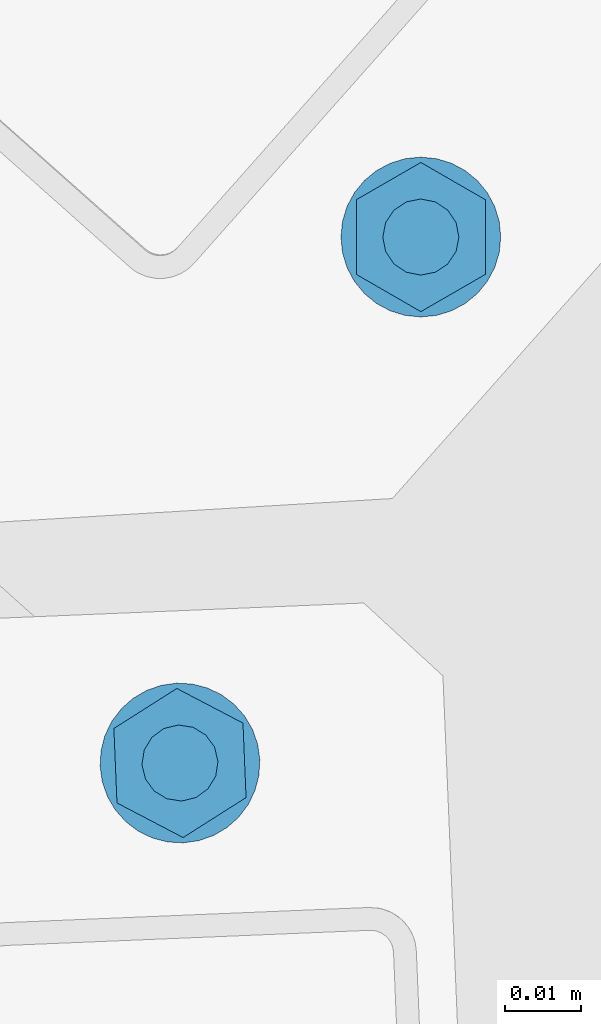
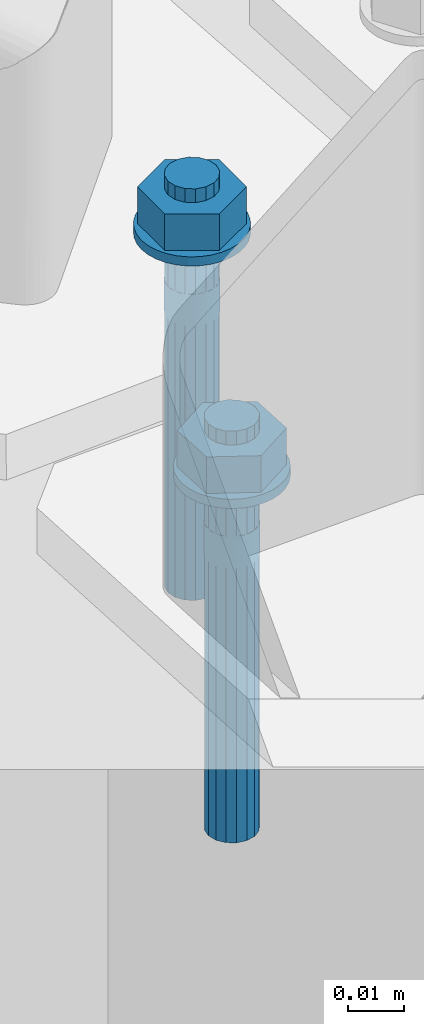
# One storey, part 245 of 288: 2 mechanical fasteners.
"""IFC2X3 building model written with IfcOpenShell, lengths in millimetres."""

from ifc_helpers import new_model, entity, si_unit, converted_unit, origin_with_axes, place, context, project, spatial, faceted_brep, element, save


model = new_model("IFC2X3")

# Units and contexts
model_context = context("Model", 3, precision=1e-09, world=origin_with_axes())
ifc_project = project(units=[si_unit("LENGTHUNIT", "METRE", prefix="MILLI"), si_unit("AREAUNIT", "SQUARE_METRE"), si_unit("VOLUMEUNIT", "CUBIC_METRE"), converted_unit("PLANEANGLEUNIT", "DEGREE", entity("IfcPlaneAngleMeasure", 0.01745329), si_unit("PLANEANGLEUNIT", "RADIAN"), dimensions=[0, 0, 0, 0, 0, 0, 0])], contexts=[model_context])

# Site, building, storey
site_placement = place(None, origin_with_axes())
site = spatial("IfcSite", under=ifc_project, at=site_placement, Name="Remont ?wietlik?w nad MC w NCPP w Opolu", CompositionType="ELEMENT")
building_placement = place(site_placement, origin_with_axes())
building = spatial("IfcBuilding", under=site, at=building_placement, Name="Konstrukcja 1", CompositionType="ELEMENT")
storey_placement = place(building_placement, origin_with_axes())
storey = spatial("IfcBuildingStorey", under=building, at=storey_placement, Name="Default Storey", CompositionType="ELEMENT", Elevation=0.0)

# Mechanical fasteners
mechanical_fastener_1_placement = place(None, origin_with_axes())
element("IfcMechanicalFastener", 1, at=mechanical_fastener_1_placement, inside=storey, ObjectType="-", NominalDiameter=10.0, NominalLength=90.0, context=model_context, shape_type="Brep", body=[
    faceted_brep([(1345.721827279, 13539.473274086, 12.017197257), (1345.721827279, 13539.473274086, 10.017197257), (1345.923581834, 13537.424825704, 10.017197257), (1345.923581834, 13537.424825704, 12.017197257), (1346.521092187, 13535.455098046, 10.017197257), (1346.521092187, 13535.455098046, 12.017197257), (1347.491396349, 13533.639786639, 10.017197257), (1347.491396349, 13533.639786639, 12.017197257), (1348.797206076, 13532.048652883, 10.017197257), (1348.797206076, 13532.048652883, 12.017197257), (1350.388339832, 13530.742843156, 10.017197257), (1350.388339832, 13530.742843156, 12.017197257), (1352.203651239, 13529.772538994, 10.017197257), (1352.203651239, 13529.772538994, 12.017197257), (1354.173378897, 13529.175028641, 10.017197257), (1354.173378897, 13529.175028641, 12.017197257), (1356.221827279, 13528.973274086, 10.017197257), (1356.221827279, 13528.973274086, 12.017197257), (1358.27027566, 13529.175028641, 10.017197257), (1358.27027566, 13529.175028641, 12.017197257), (1360.240003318, 13529.772538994, 10.017197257), (1360.240003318, 13529.772538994, 12.017197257), (1362.055314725, 13530.742843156, 10.017197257), (1362.055314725, 13530.742843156, 12.017197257), (1363.646448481, 13532.048652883, 10.017197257), (1363.646448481, 13532.048652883, 12.017197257), (1364.952258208, 13533.639786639, 10.017197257), (1364.952258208, 13533.639786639, 12.017197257), (1365.92256237, 13535.455098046, 10.017197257), (1365.92256237, 13535.455098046, 12.017197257), (1366.520072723, 13537.424825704, 10.017197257), (1366.520072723, 13537.424825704, 12.017197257), (1366.721827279, 13539.473274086, 10.017197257), (1366.721827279, 13539.473274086, 12.017197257), (1366.520072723, 13541.521722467, 10.017197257), (1366.520072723, 13541.521722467, 12.017197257), (1365.92256237, 13543.491450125, 10.017197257), (1365.92256237, 13543.491450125, 12.017197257), (1364.952258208, 13545.306761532, 10.017197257), (1364.952258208, 13545.306761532, 12.017197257), (1363.646448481, 13546.897895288, 10.017197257), (1363.646448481, 13546.897895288, 12.017197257), (1362.055314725, 13548.203705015, 10.017197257), (1362.055314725, 13548.203705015, 12.017197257), (1360.240003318, 13549.174009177, 10.017197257), (1360.240003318, 13549.174009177, 12.017197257), (1358.27027566, 13549.77151953, 10.017197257), (1358.27027566, 13549.77151953, 12.017197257), (1356.221827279, 13549.973274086, 10.017197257), (1356.221827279, 13549.973274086, 12.017197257), (1354.173378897, 13549.77151953, 10.017197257), (1354.173378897, 13549.77151953, 12.017197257), (1352.203651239, 13549.174009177, 10.017197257), (1352.203651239, 13549.174009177, 12.017197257), (1350.388339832, 13548.203705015, 10.017197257), (1350.388339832, 13548.203705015, 12.017197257), (1348.797206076, 13546.897895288, 10.017197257), (1348.797206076, 13546.897895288, 12.017197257), (1347.491396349, 13545.306761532, 10.017197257), (1347.491396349, 13545.306761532, 12.017197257), (1346.521092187, 13543.491450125, 10.017197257), (1346.521092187, 13543.491450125, 12.017197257), (1345.923581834, 13541.521722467, 10.017197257), (1345.923581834, 13541.521722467, 12.017197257)], [[[0, 1, 2, 3]], [[3, 2, 4, 5]], [[5, 4, 6, 7]], [[7, 6, 8, 9]], [[9, 8, 10, 11]], [[11, 10, 12, 13]], [[13, 12, 14, 15]], [[15, 14, 16, 17]], [[17, 16, 18, 19]], [[19, 18, 20, 21]], [[21, 20, 22, 23]], [[23, 22, 24, 25]], [[25, 24, 26, 27]], [[27, 26, 28, 29]], [[29, 28, 30, 31]], [[31, 30, 32, 33]], [[33, 32, 34, 35]], [[35, 34, 36, 37]], [[37, 36, 38, 39]], [[39, 38, 40, 41]], [[41, 40, 42, 43]], [[43, 42, 44, 45]], [[45, 44, 46, 47]], [[47, 46, 48, 49]], [[49, 48, 50, 51]], [[51, 50, 52, 53]], [[53, 52, 54, 55]], [[55, 54, 56, 57]], [[57, 56, 58, 59]], [[59, 58, 60, 61]], [[61, 60, 62, 63]], [[63, 62, 1, 0]], [[0, 3, 5, 7, 9, 11, 13, 15, 17, 19, 21, 23, 25, 27, 29, 31, 33, 35, 37, 39, 41, 43, 45, 47, 49, 51, 53, 55, 57, 59, 61, 63]], [[1, 62, 60, 58, 56, 54, 52, 50, 48, 46, 44, 42, 40, 38, 36, 34, 32, 30, 28, 26, 24, 22, 20, 18, 16, 14, 12, 10, 8, 6, 4, 2]]]),
    faceted_brep([(1364.708876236, 13534.573274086, 12.017197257), (1364.708876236, 13534.573274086, 20.017197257), (1356.221827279, 13529.673274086, 20.017197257), (1356.221827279, 13529.673274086, 12.017197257), (1347.734778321, 13534.573274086, 20.017197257), (1347.734778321, 13534.573274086, 12.017197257), (1347.734778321, 13544.373274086, 20.017197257), (1347.734778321, 13544.373274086, 12.017197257), (1356.221827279, 13549.273274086, 20.017197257), (1356.221827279, 13549.273274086, 12.017197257), (1364.708876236, 13544.373274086, 20.017197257), (1364.708876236, 13544.373274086, 12.017197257)], [[[0, 1, 2, 3]], [[3, 2, 4, 5]], [[5, 4, 6, 7]], [[7, 6, 8, 9]], [[9, 8, 10, 11]], [[11, 10, 1, 0]], [[4, 2, 1, 10, 8, 6]], [[0, 3, 5, 7, 9, 11]]]),
    faceted_brep([(1351.221827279, 13539.473274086, 23.017197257), (1351.221827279, 13539.473274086, 20.017197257), (1351.602429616, 13537.559856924, 20.017197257), (1351.602429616, 13537.559856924, 23.017197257), (1352.686293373, 13535.93774018, 20.017197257), (1352.686293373, 13535.93774018, 23.017197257), (1354.308410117, 13534.853876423, 20.017197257), (1354.308410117, 13534.853876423, 23.017197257), (1356.221827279, 13534.473274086, 20.017197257), (1356.221827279, 13534.473274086, 23.017197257), (1358.13524444, 13534.853876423, 20.017197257), (1358.13524444, 13534.853876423, 23.017197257), (1359.757361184, 13535.93774018, 20.017197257), (1359.757361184, 13535.93774018, 23.017197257), (1360.841224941, 13537.559856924, 20.017197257), (1360.841224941, 13537.559856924, 23.017197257), (1361.221827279, 13539.473274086, 20.017197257), (1361.221827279, 13539.473274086, 23.017197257), (1360.841224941, 13541.386691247, 20.017197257), (1360.841224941, 13541.386691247, 23.017197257), (1359.757361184, 13543.008807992, 20.017197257), (1359.757361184, 13543.008807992, 23.017197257), (1358.13524444, 13544.092671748, 20.017197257), (1358.13524444, 13544.092671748, 23.017197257), (1356.221827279, 13544.473274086, 20.017197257), (1356.221827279, 13544.473274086, 23.017197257), (1354.308410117, 13544.092671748, 20.017197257), (1354.308410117, 13544.092671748, 23.017197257), (1352.686293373, 13543.008807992, 20.017197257), (1352.686293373, 13543.008807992, 23.017197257), (1351.602429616, 13541.386691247, 20.017197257), (1351.602429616, 13541.386691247, 23.017197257)], [[[0, 1, 2, 3]], [[3, 2, 4, 5]], [[5, 4, 6, 7]], [[7, 6, 8, 9]], [[9, 8, 10, 11]], [[11, 10, 12, 13]], [[13, 12, 14, 15]], [[15, 14, 16, 17]], [[17, 16, 18, 19]], [[19, 18, 20, 21]], [[21, 20, 22, 23]], [[23, 22, 24, 25]], [[25, 24, 26, 27]], [[27, 26, 28, 29]], [[29, 28, 30, 31]], [[31, 30, 1, 0]], [[0, 3, 5, 7, 9, 11, 13, 15, 17, 19, 21, 23, 25, 27, 29, 31]], [[1, 30, 28, 26, 24, 22, 20, 18, 16, 14, 12, 10, 8, 6, 4, 2]]]),
    faceted_brep([(1351.221827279, 13539.473274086, 10.017197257), (1351.221827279, 13539.473274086, -0.025588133), (1351.602429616, 13537.559856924, -0.025588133), (1351.602429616, 13537.559856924, 10.017197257), (1352.686293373, 13535.93774018, -0.025588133), (1352.686293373, 13535.93774018, 10.017197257), (1354.308410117, 13534.853876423, -0.025588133), (1354.308410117, 13534.853876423, 10.017197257), (1356.221827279, 13534.473274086, -0.025588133), (1356.221827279, 13534.473274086, 10.017197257), (1358.13524444, 13534.853876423, -0.025588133), (1358.13524444, 13534.853876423, 10.017197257), (1359.757361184, 13535.93774018, -0.025588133), (1359.757361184, 13535.93774018, 10.017197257), (1360.841224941, 13537.559856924, -0.025588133), (1360.841224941, 13537.559856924, 10.017197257), (1361.221827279, 13539.473274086, -0.025588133), (1361.221827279, 13539.473274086, 10.017197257), (1360.841224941, 13541.386691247, -0.025588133), (1360.841224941, 13541.386691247, 10.017197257), (1359.757361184, 13543.008807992, -0.025588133), (1359.757361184, 13543.008807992, 10.017197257), (1358.13524444, 13544.092671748, -0.025588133), (1358.13524444, 13544.092671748, 10.017197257), (1356.221827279, 13544.473274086, -0.025588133), (1356.221827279, 13544.473274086, 10.017197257), (1354.308410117, 13544.092671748, -0.025588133), (1354.308410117, 13544.092671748, 10.017197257), (1352.686293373, 13543.008807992, -0.025588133), (1352.686293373, 13543.008807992, 10.017197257), (1351.602429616, 13541.386691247, -0.025588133), (1351.602429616, 13541.386691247, 10.017197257)], [[[0, 1, 2, 3]], [[3, 2, 4, 5]], [[5, 4, 6, 7]], [[7, 6, 8, 9]], [[9, 8, 10, 11]], [[11, 10, 12, 13]], [[13, 12, 14, 15]], [[15, 14, 16, 17]], [[17, 16, 18, 19]], [[19, 18, 20, 21]], [[21, 20, 22, 23]], [[23, 22, 24, 25]], [[25, 24, 26, 27]], [[27, 26, 28, 29]], [[29, 28, 30, 31]], [[31, 30, 1, 0]], [[0, 3, 5, 7, 9, 11, 13, 15, 17, 19, 21, 23, 25, 27, 29, 31]], [[1, 30, 28, 26, 24, 22, 20, 18, 16, 14, 12, 10, 8, 6, 4, 2]]]),
    faceted_brep([(1351.221827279, 13539.473274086, -0.025588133), (1351.221827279, 13539.473274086, -6.982802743), (1351.317900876, 13538.497822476, -6.982802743), (1351.317900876, 13538.497822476, -0.025588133), (1351.602429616, 13537.559856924, -6.982802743), (1351.602429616, 13537.559856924, -0.025588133), (1352.064479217, 13536.695422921, -6.982802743), (1352.064479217, 13536.695422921, -0.025588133), (1352.686293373, 13535.93774018, -6.982802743), (1352.686293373, 13535.93774018, -0.025588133), (1353.443976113, 13535.315926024, -6.982802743), (1353.443976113, 13535.315926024, -0.025588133), (1354.308410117, 13534.853876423, -6.982802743), (1354.308410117, 13534.853876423, -0.025588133), (1355.246375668, 13534.569347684, -6.982802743), (1355.246375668, 13534.569347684, -0.025588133), (1356.221827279, 13534.473274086, -6.982802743), (1356.221827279, 13534.473274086, -0.025588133), (1357.197278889, 13534.569347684, -6.982802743), (1357.197278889, 13534.569347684, -0.025588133), (1358.13524444, 13534.853876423, -6.982802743), (1358.13524444, 13534.853876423, -0.025588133), (1358.999678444, 13535.315926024, -6.982802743), (1358.999678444, 13535.315926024, -0.025588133), (1359.757361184, 13535.93774018, -6.982802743), (1359.757361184, 13535.93774018, -0.025588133), (1360.37917534, 13536.695422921, -6.982802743), (1360.37917534, 13536.695422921, -0.025588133), (1360.841224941, 13537.559856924, -6.982802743), (1360.841224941, 13537.559856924, -0.025588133), (1361.125753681, 13538.497822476, -6.982802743), (1361.125753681, 13538.497822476, -0.025588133), (1361.221827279, 13539.473274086, -6.982802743), (1361.221827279, 13539.473274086, -0.025588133), (1361.125753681, 13540.448725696, -6.982802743), (1361.125753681, 13540.448725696, -0.025588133), (1360.841224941, 13541.386691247, -6.982802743), (1360.841224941, 13541.386691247, -0.025588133), (1360.37917534, 13542.251125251, -6.982802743), (1360.37917534, 13542.251125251, -0.025588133), (1359.757361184, 13543.008807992, -6.982802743), (1359.757361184, 13543.008807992, -0.025588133), (1358.999678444, 13543.630622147, -6.982802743), (1358.999678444, 13543.630622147, -0.025588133), (1358.13524444, 13544.092671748, -6.982802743), (1358.13524444, 13544.092671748, -0.025588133), (1357.197278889, 13544.377200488, -6.982802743), (1357.197278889, 13544.377200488, -0.025588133), (1356.221827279, 13544.473274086, -6.982802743), (1356.221827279, 13544.473274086, -0.025588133), (1355.246375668, 13544.377200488, -6.982802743), (1355.246375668, 13544.377200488, -0.025588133), (1354.308410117, 13544.092671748, -6.982802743), (1354.308410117, 13544.092671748, -0.025588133), (1353.443976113, 13543.630622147, -6.982802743), (1353.443976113, 13543.630622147, -0.025588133), (1352.686293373, 13543.008807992, -6.982802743), (1352.686293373, 13543.008807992, -0.025588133), (1352.064479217, 13542.251125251, -6.982802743), (1352.064479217, 13542.251125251, -0.025588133), (1351.602429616, 13541.386691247, -6.982802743), (1351.602429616, 13541.386691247, -0.025588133), (1351.317900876, 13540.448725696, -6.982802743), (1351.317900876, 13540.448725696, -0.025588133)], [[[0, 1, 2, 3]], [[3, 2, 4, 5]], [[5, 4, 6, 7]], [[7, 6, 8, 9]], [[9, 8, 10, 11]], [[11, 10, 12, 13]], [[13, 12, 14, 15]], [[15, 14, 16, 17]], [[17, 16, 18, 19]], [[19, 18, 20, 21]], [[21, 20, 22, 23]], [[23, 22, 24, 25]], [[25, 24, 26, 27]], [[27, 26, 28, 29]], [[29, 28, 30, 31]], [[31, 30, 32, 33]], [[33, 32, 34, 35]], [[35, 34, 36, 37]], [[37, 36, 38, 39]], [[39, 38, 40, 41]], [[41, 40, 42, 43]], [[43, 42, 44, 45]], [[45, 44, 46, 47]], [[47, 46, 48, 49]], [[49, 48, 50, 51]], [[51, 50, 52, 53]], [[53, 52, 54, 55]], [[55, 54, 56, 57]], [[57, 56, 58, 59]], [[59, 58, 60, 61]], [[61, 60, 62, 63]], [[63, 62, 1, 0]], [[0, 3, 5, 7, 9, 11, 13, 15, 17, 19, 21, 23, 25, 27, 29, 31, 33, 35, 37, 39, 41, 43, 45, 47, 49, 51, 53, 55, 57, 59, 61, 63]], [[1, 62, 60, 58, 56, 54, 52, 50, 48, 46, 44, 42, 40, 38, 36, 34, 32, 30, 28, 26, 24, 22, 20, 18, 16, 14, 12, 10, 8, 6, 4, 2]]]),
    faceted_brep([(1351.221827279, 13539.473274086, -6.982802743), (1351.221827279, 13539.473274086, -66.982802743), (1351.602429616, 13537.559856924, -66.982802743), (1351.602429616, 13537.559856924, -6.982802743), (1352.686293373, 13535.93774018, -66.982802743), (1352.686293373, 13535.93774018, -6.982802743), (1354.308410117, 13534.853876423, -66.982802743), (1354.308410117, 13534.853876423, -6.982802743), (1356.221827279, 13534.473274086, -66.982802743), (1356.221827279, 13534.473274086, -6.982802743), (1358.13524444, 13534.853876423, -66.982802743), (1358.13524444, 13534.853876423, -6.982802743), (1359.757361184, 13535.93774018, -66.982802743), (1359.757361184, 13535.93774018, -6.982802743), (1360.841224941, 13537.559856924, -66.982802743), (1360.841224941, 13537.559856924, -6.982802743), (1361.221827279, 13539.473274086, -66.982802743), (1361.221827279, 13539.473274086, -6.982802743), (1360.841224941, 13541.386691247, -66.982802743), (1360.841224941, 13541.386691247, -6.982802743), (1359.757361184, 13543.008807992, -66.982802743), (1359.757361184, 13543.008807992, -6.982802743), (1358.13524444, 13544.092671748, -66.982802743), (1358.13524444, 13544.092671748, -6.982802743), (1356.221827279, 13544.473274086, -66.982802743), (1356.221827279, 13544.473274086, -6.982802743), (1354.308410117, 13544.092671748, -66.982802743), (1354.308410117, 13544.092671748, -6.982802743), (1352.686293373, 13543.008807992, -66.982802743), (1352.686293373, 13543.008807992, -6.982802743), (1351.602429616, 13541.386691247, -66.982802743), (1351.602429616, 13541.386691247, -6.982802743)], [[[0, 1, 2, 3]], [[3, 2, 4, 5]], [[5, 4, 6, 7]], [[7, 6, 8, 9]], [[9, 8, 10, 11]], [[11, 10, 12, 13]], [[13, 12, 14, 15]], [[15, 14, 16, 17]], [[17, 16, 18, 19]], [[19, 18, 20, 21]], [[21, 20, 22, 23]], [[23, 22, 24, 25]], [[25, 24, 26, 27]], [[27, 26, 28, 29]], [[29, 28, 30, 31]], [[31, 30, 1, 0]], [[0, 3, 5, 7, 9, 11, 13, 15, 17, 19, 21, 23, 25, 27, 29, 31]], [[1, 30, 28, 26, 24, 22, 20, 18, 16, 14, 12, 10, 8, 6, 4, 2]]]),
])
mechanical_fastener_2_placement = place(None, origin_with_axes())
element("IfcMechanicalFastener", 2, at=mechanical_fastener_2_placement, inside=storey, ObjectType="Anchor_Bolt", NominalDiameter=10.0, NominalLength=90.0, context=model_context, shape_type="Brep", body=[
    faceted_brep([(1314.080659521, 13469.92747327, 12.000000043), (1314.080659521, 13469.92747327, 10.000000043), (1314.367601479, 13467.88921176, 10.000000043), (1314.367601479, 13467.88921176, 12.000000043), (1315.046675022, 13465.946094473, 10.000000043), (1315.046675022, 13465.946094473, 12.000000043), (1316.091783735, 13464.172794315, 10.000000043), (1316.091783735, 13464.172794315, 12.000000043), (1317.462764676, 13462.637458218, 10.000000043), (1317.462764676, 13462.637458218, 12.000000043), (1319.106931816, 13461.399088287, 10.000000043), (1319.106931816, 13461.399088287, 12.000000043), (1320.961100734, 13460.505274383, 10.000000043), (1320.961100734, 13460.505274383, 12.000000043), (1322.954016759, 13459.990365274, 10.000000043), (1322.954016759, 13459.990365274, 12.000000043), (1325.009093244, 13459.874148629, 10.000000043), (1325.009093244, 13459.874148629, 12.000000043), (1327.047354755, 13460.161090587, 10.000000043), (1327.047354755, 13460.161090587, 12.000000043), (1328.990472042, 13460.84016413, 10.000000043), (1328.990472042, 13460.84016413, 12.000000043), (1330.7637722, 13461.885272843, 10.000000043), (1330.7637722, 13461.885272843, 12.000000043), (1332.299108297, 13463.256253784, 10.000000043), (1332.299108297, 13463.256253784, 12.000000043), (1333.537478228, 13464.900420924, 10.000000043), (1333.537478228, 13464.900420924, 12.000000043), (1334.431292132, 13466.754589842, 10.000000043), (1334.431292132, 13466.754589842, 12.000000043), (1334.94620124, 13468.747505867, 10.000000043), (1334.94620124, 13468.747505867, 12.000000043), (1335.062417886, 13470.802582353, 10.000000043), (1335.062417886, 13470.802582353, 12.000000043), (1334.775475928, 13472.840843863, 10.000000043), (1334.775475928, 13472.840843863, 12.000000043), (1334.096402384, 13474.783961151, 10.000000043), (1334.096402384, 13474.783961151, 12.000000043), (1333.051293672, 13476.557261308, 10.000000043), (1333.051293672, 13476.557261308, 12.000000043), (1331.680312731, 13478.092597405, 10.000000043), (1331.680312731, 13478.092597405, 12.000000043), (1330.036145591, 13479.330967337, 10.000000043), (1330.036145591, 13479.330967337, 12.000000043), (1328.181976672, 13480.22478124, 10.000000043), (1328.181976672, 13480.22478124, 12.000000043), (1326.189060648, 13480.739690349, 10.000000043), (1326.189060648, 13480.739690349, 12.000000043), (1324.133984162, 13480.855906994, 10.000000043), (1324.133984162, 13480.855906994, 12.000000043), (1322.095722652, 13480.568965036, 10.000000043), (1322.095722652, 13480.568965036, 12.000000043), (1320.152605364, 13479.889891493, 10.000000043), (1320.152605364, 13479.889891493, 12.000000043), (1318.379305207, 13478.84478278, 10.000000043), (1318.379305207, 13478.84478278, 12.000000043), (1316.843969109, 13477.473801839, 10.000000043), (1316.843969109, 13477.473801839, 12.000000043), (1315.605599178, 13475.829634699, 10.000000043), (1315.605599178, 13475.829634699, 12.000000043), (1314.711785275, 13473.975465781, 10.000000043), (1314.711785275, 13473.975465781, 12.000000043), (1314.196876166, 13471.982549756, 10.000000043), (1314.196876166, 13471.982549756, 12.000000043)], [[[0, 1, 2, 3]], [[3, 2, 4, 5]], [[5, 4, 6, 7]], [[7, 6, 8, 9]], [[9, 8, 10, 11]], [[11, 10, 12, 13]], [[13, 12, 14, 15]], [[15, 14, 16, 17]], [[17, 16, 18, 19]], [[19, 18, 20, 21]], [[21, 20, 22, 23]], [[23, 22, 24, 25]], [[25, 24, 26, 27]], [[27, 26, 28, 29]], [[29, 28, 30, 31]], [[31, 30, 32, 33]], [[33, 32, 34, 35]], [[35, 34, 36, 37]], [[37, 36, 38, 39]], [[39, 38, 40, 41]], [[41, 40, 42, 43]], [[43, 42, 44, 45]], [[45, 44, 46, 47]], [[47, 46, 48, 49]], [[49, 48, 50, 51]], [[51, 50, 52, 53]], [[53, 52, 54, 55]], [[55, 54, 56, 57]], [[57, 56, 58, 59]], [[59, 58, 60, 61]], [[61, 60, 62, 63]], [[63, 62, 1, 0]], [[0, 3, 5, 7, 9, 11, 13, 15, 17, 19, 21, 23, 25, 27, 29, 31, 33, 35, 37, 39, 41, 43, 45, 47, 49, 51, 53, 55, 57, 59, 61, 63]], [[1, 62, 60, 58, 56, 54, 52, 50, 48, 46, 44, 42, 40, 38, 36, 34, 32, 30, 28, 26, 24, 22, 20, 18, 16, 14, 12, 10, 8, 6, 4, 2]]]),
    faceted_brep([(1333.255407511, 13465.822955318, 12.000000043), (1333.255407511, 13465.822955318, 20.000000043), (1324.979922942, 13460.573540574, 20.000000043), (1324.979922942, 13460.573540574, 12.000000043), (1316.296054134, 13465.115613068, 20.000000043), (1316.296054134, 13465.115613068, 12.000000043), (1315.887669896, 13474.907100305, 20.000000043), (1315.887669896, 13474.907100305, 12.000000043), (1324.163154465, 13480.156515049, 20.000000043), (1324.163154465, 13480.156515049, 12.000000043), (1332.847023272, 13475.614442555, 20.000000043), (1332.847023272, 13475.614442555, 12.000000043)], [[[0, 1, 2, 3]], [[3, 2, 4, 5]], [[5, 4, 6, 7]], [[7, 6, 8, 9]], [[9, 8, 10, 11]], [[11, 10, 1, 0]], [[4, 2, 1, 10, 8, 6]], [[0, 3, 5, 7, 9, 11]]]),
    faceted_brep([(1319.57588195, 13470.156668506, 23.000000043), (1319.57588195, 13470.156668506, 20.000000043), (1320.035889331, 13468.260773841, 20.000000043), (1320.035889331, 13468.260773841, 23.000000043), (1321.186408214, 13466.685232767, 20.000000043), (1321.186408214, 13466.685232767, 23.000000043), (1322.852282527, 13465.669907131, 20.000000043), (1322.852282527, 13465.669907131, 23.000000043), (1324.779898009, 13465.369371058, 20.000000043), (1324.779898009, 13465.369371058, 23.000000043), (1326.675792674, 13465.82937844, 20.000000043), (1326.675792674, 13465.82937844, 23.000000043), (1328.251333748, 13466.979897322, 20.000000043), (1328.251333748, 13466.979897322, 23.000000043), (1329.266659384, 13468.645771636, 20.000000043), (1329.266659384, 13468.645771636, 23.000000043), (1329.567195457, 13470.573387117, 20.000000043), (1329.567195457, 13470.573387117, 23.000000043), (1329.107188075, 13472.469281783, 20.000000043), (1329.107188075, 13472.469281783, 23.000000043), (1327.956669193, 13474.044822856, 20.000000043), (1327.956669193, 13474.044822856, 23.000000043), (1326.290794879, 13475.060148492, 20.000000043), (1326.290794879, 13475.060148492, 23.000000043), (1324.363179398, 13475.360684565, 20.000000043), (1324.363179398, 13475.360684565, 23.000000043), (1322.467284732, 13474.900677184, 20.000000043), (1322.467284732, 13474.900677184, 23.000000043), (1320.891743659, 13473.750158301, 20.000000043), (1320.891743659, 13473.750158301, 23.000000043), (1319.876418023, 13472.084283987, 20.000000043), (1319.876418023, 13472.084283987, 23.000000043)], [[[0, 1, 2, 3]], [[3, 2, 4, 5]], [[5, 4, 6, 7]], [[7, 6, 8, 9]], [[9, 8, 10, 11]], [[11, 10, 12, 13]], [[13, 12, 14, 15]], [[15, 14, 16, 17]], [[17, 16, 18, 19]], [[19, 18, 20, 21]], [[21, 20, 22, 23]], [[23, 22, 24, 25]], [[25, 24, 26, 27]], [[27, 26, 28, 29]], [[29, 28, 30, 31]], [[31, 30, 1, 0]], [[0, 3, 5, 7, 9, 11, 13, 15, 17, 19, 21, 23, 25, 27, 29, 31]], [[1, 30, 28, 26, 24, 22, 20, 18, 16, 14, 12, 10, 8, 6, 4, 2]]]),
    faceted_brep([(1319.57588195, 13470.156668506, 10.000000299), (1319.57588195, 13470.156668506, 4.3e-08), (1320.035889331, 13468.260773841, 4.3e-08), (1320.035889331, 13468.260773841, 10.000000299), (1321.186408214, 13466.685232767, 4.3e-08), (1321.186408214, 13466.685232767, 10.000000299), (1322.852282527, 13465.669907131, 4.3e-08), (1322.852282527, 13465.669907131, 10.000000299), (1324.779898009, 13465.369371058, 4.3e-08), (1324.779898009, 13465.369371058, 10.000000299), (1326.675792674, 13465.82937844, 4.3e-08), (1326.675792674, 13465.82937844, 10.000000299), (1328.251333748, 13466.979897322, 4.3e-08), (1328.251333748, 13466.979897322, 10.000000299), (1329.266659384, 13468.645771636, 4.3e-08), (1329.266659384, 13468.645771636, 10.000000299), (1329.567195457, 13470.573387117, 4.3e-08), (1329.567195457, 13470.573387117, 10.000000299), (1329.107188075, 13472.469281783, 4.3e-08), (1329.107188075, 13472.469281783, 10.000000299), (1327.956669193, 13474.044822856, 4.3e-08), (1327.956669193, 13474.044822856, 10.000000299), (1326.290794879, 13475.060148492, 4.3e-08), (1326.290794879, 13475.060148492, 10.000000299), (1324.363179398, 13475.360684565, 4.3e-08), (1324.363179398, 13475.360684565, 10.000000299), (1322.467284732, 13474.900677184, 4.3e-08), (1322.467284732, 13474.900677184, 10.000000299), (1320.891743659, 13473.750158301, 4.3e-08), (1320.891743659, 13473.750158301, 10.000000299), (1319.876418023, 13472.084283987, 4.3e-08), (1319.876418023, 13472.084283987, 10.000000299)], [[[0, 1, 2, 3]], [[3, 2, 4, 5]], [[5, 4, 6, 7]], [[7, 6, 8, 9]], [[9, 8, 10, 11]], [[11, 10, 12, 13]], [[13, 12, 14, 15]], [[15, 14, 16, 17]], [[17, 16, 18, 19]], [[19, 18, 20, 21]], [[21, 20, 22, 23]], [[23, 22, 24, 25]], [[25, 24, 26, 27]], [[27, 26, 28, 29]], [[29, 28, 30, 31]], [[31, 30, 1, 0]], [[0, 3, 5, 7, 9, 11, 13, 15, 17, 19, 21, 23, 25, 27, 29, 31]], [[1, 30, 28, 26, 24, 22, 20, 18, 16, 14, 12, 10, 8, 6, 4, 2]]]),
    faceted_brep([(1319.57588195, 13470.156668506, -2.13e-07), (1319.57588195, 13470.156668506, -6.999999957), (1319.712520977, 13469.186067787, -6.999999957), (1319.712520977, 13469.186067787, -2.13e-07), (1320.035889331, 13468.260773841, -6.999999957), (1320.035889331, 13468.260773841, -2.13e-07), (1320.533560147, 13467.416345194, -6.999999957), (1320.533560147, 13467.416345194, -2.13e-07), (1321.186408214, 13466.685232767, -6.999999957), (1321.186408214, 13466.685232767, -2.13e-07), (1321.969344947, 13466.0955328, -6.999999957), (1321.969344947, 13466.0955328, -2.13e-07), (1322.852282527, 13465.669907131, -6.999999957), (1322.852282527, 13465.669907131, -2.13e-07), (1323.801290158, 13465.424712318, -6.999999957), (1323.801290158, 13465.424712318, -2.13e-07), (1324.779898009, 13465.369371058, -6.999999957), (1324.779898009, 13465.369371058, -2.13e-07), (1325.750498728, 13465.506010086, -6.999999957), (1325.750498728, 13465.506010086, -2.13e-07), (1326.675792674, 13465.82937844, -6.999999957), (1326.675792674, 13465.82937844, -2.13e-07), (1327.520221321, 13466.327049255, -6.999999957), (1327.520221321, 13466.327049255, -2.13e-07), (1328.251333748, 13466.979897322, -6.999999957), (1328.251333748, 13466.979897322, -2.13e-07), (1328.841033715, 13467.762834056, -6.999999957), (1328.841033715, 13467.762834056, -2.13e-07), (1329.266659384, 13468.645771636, -6.999999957), (1329.266659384, 13468.645771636, -2.13e-07), (1329.511854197, 13469.594779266, -6.999999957), (1329.511854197, 13469.594779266, -2.13e-07), (1329.567195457, 13470.573387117, -6.999999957), (1329.567195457, 13470.573387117, -2.13e-07), (1329.430556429, 13471.543987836, -6.999999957), (1329.430556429, 13471.543987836, -2.13e-07), (1329.107188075, 13472.469281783, -6.999999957), (1329.107188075, 13472.469281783, -2.13e-07), (1328.60951726, 13473.313710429, -6.999999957), (1328.60951726, 13473.313710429, -2.13e-07), (1327.956669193, 13474.044822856, -6.999999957), (1327.956669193, 13474.044822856, -2.13e-07), (1327.173732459, 13474.634522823, -6.999999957), (1327.173732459, 13474.634522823, -2.13e-07), (1326.290794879, 13475.060148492, -6.999999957), (1326.290794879, 13475.060148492, -2.13e-07), (1325.341787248, 13475.305343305, -6.999999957), (1325.341787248, 13475.305343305, -2.13e-07), (1324.363179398, 13475.360684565, -6.999999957), (1324.363179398, 13475.360684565, -2.13e-07), (1323.392578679, 13475.224045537, -6.999999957), (1323.392578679, 13475.224045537, -2.13e-07), (1322.467284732, 13474.900677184, -6.999999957), (1322.467284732, 13474.900677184, -2.13e-07), (1321.622856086, 13474.403006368, -6.999999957), (1321.622856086, 13474.403006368, -2.13e-07), (1320.891743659, 13473.750158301, -6.999999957), (1320.891743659, 13473.750158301, -2.13e-07), (1320.302043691, 13472.967221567, -6.999999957), (1320.302043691, 13472.967221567, -2.13e-07), (1319.876418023, 13472.084283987, -6.999999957), (1319.876418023, 13472.084283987, -2.13e-07), (1319.631223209, 13471.135276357, -6.999999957), (1319.631223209, 13471.135276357, -2.13e-07)], [[[0, 1, 2, 3]], [[3, 2, 4, 5]], [[5, 4, 6, 7]], [[7, 6, 8, 9]], [[9, 8, 10, 11]], [[11, 10, 12, 13]], [[13, 12, 14, 15]], [[15, 14, 16, 17]], [[17, 16, 18, 19]], [[19, 18, 20, 21]], [[21, 20, 22, 23]], [[23, 22, 24, 25]], [[25, 24, 26, 27]], [[27, 26, 28, 29]], [[29, 28, 30, 31]], [[31, 30, 32, 33]], [[33, 32, 34, 35]], [[35, 34, 36, 37]], [[37, 36, 38, 39]], [[39, 38, 40, 41]], [[41, 40, 42, 43]], [[43, 42, 44, 45]], [[45, 44, 46, 47]], [[47, 46, 48, 49]], [[49, 48, 50, 51]], [[51, 50, 52, 53]], [[53, 52, 54, 55]], [[55, 54, 56, 57]], [[57, 56, 58, 59]], [[59, 58, 60, 61]], [[61, 60, 62, 63]], [[63, 62, 1, 0]], [[0, 3, 5, 7, 9, 11, 13, 15, 17, 19, 21, 23, 25, 27, 29, 31, 33, 35, 37, 39, 41, 43, 45, 47, 49, 51, 53, 55, 57, 59, 61, 63]], [[1, 62, 60, 58, 56, 54, 52, 50, 48, 46, 44, 42, 40, 38, 36, 34, 32, 30, 28, 26, 24, 22, 20, 18, 16, 14, 12, 10, 8, 6, 4, 2]]]),
    faceted_brep([(1319.57588195, 13470.156668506, -6.999999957), (1319.57588195, 13470.156668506, -66.999999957), (1320.035889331, 13468.260773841, -66.999999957), (1320.035889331, 13468.260773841, -6.999999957), (1321.186408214, 13466.685232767, -66.999999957), (1321.186408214, 13466.685232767, -6.999999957), (1322.852282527, 13465.669907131, -66.999999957), (1322.852282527, 13465.669907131, -6.999999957), (1324.779898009, 13465.369371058, -66.999999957), (1324.779898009, 13465.369371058, -6.999999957), (1326.675792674, 13465.82937844, -66.999999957), (1326.675792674, 13465.82937844, -6.999999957), (1328.251333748, 13466.979897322, -66.999999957), (1328.251333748, 13466.979897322, -6.999999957), (1329.266659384, 13468.645771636, -66.999999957), (1329.266659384, 13468.645771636, -6.999999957), (1329.567195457, 13470.573387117, -66.999999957), (1329.567195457, 13470.573387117, -6.999999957), (1329.107188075, 13472.469281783, -66.999999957), (1329.107188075, 13472.469281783, -6.999999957), (1327.956669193, 13474.044822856, -66.999999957), (1327.956669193, 13474.044822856, -6.999999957), (1326.290794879, 13475.060148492, -66.999999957), (1326.290794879, 13475.060148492, -6.999999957), (1324.363179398, 13475.360684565, -66.999999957), (1324.363179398, 13475.360684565, -6.999999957), (1322.467284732, 13474.900677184, -66.999999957), (1322.467284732, 13474.900677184, -6.999999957), (1320.891743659, 13473.750158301, -66.999999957), (1320.891743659, 13473.750158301, -6.999999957), (1319.876418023, 13472.084283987, -66.999999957), (1319.876418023, 13472.084283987, -6.999999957)], [[[0, 1, 2, 3]], [[3, 2, 4, 5]], [[5, 4, 6, 7]], [[7, 6, 8, 9]], [[9, 8, 10, 11]], [[11, 10, 12, 13]], [[13, 12, 14, 15]], [[15, 14, 16, 17]], [[17, 16, 18, 19]], [[19, 18, 20, 21]], [[21, 20, 22, 23]], [[23, 22, 24, 25]], [[25, 24, 26, 27]], [[27, 26, 28, 29]], [[29, 28, 30, 31]], [[31, 30, 1, 0]], [[0, 3, 5, 7, 9, 11, 13, 15, 17, 19, 21, 23, 25, 27, 29, 31]], [[1, 30, 28, 26, 24, 22, 20, 18, 16, 14, 12, 10, 8, 6, 4, 2]]]),
])

save(model, "model.ifc")
